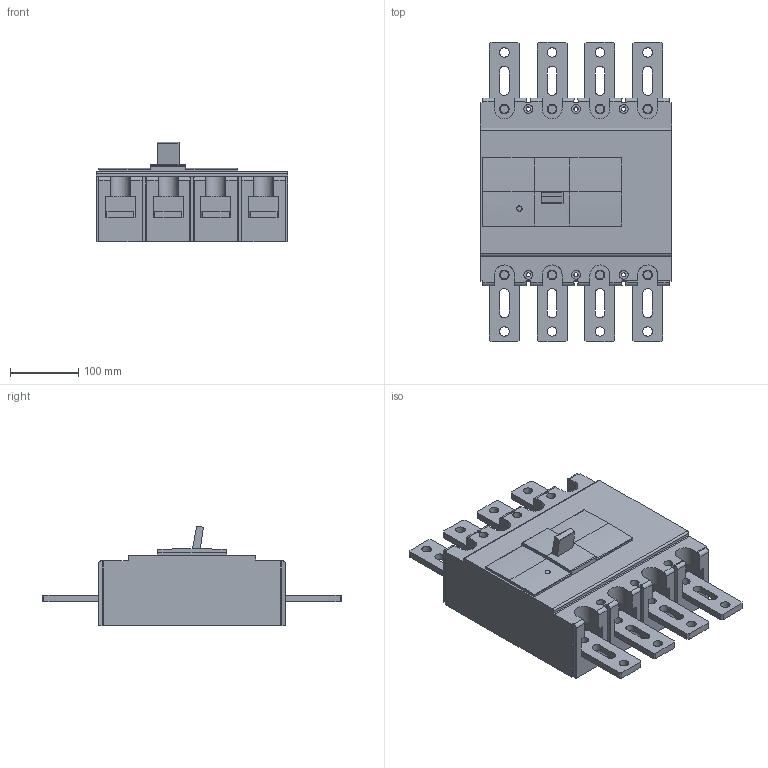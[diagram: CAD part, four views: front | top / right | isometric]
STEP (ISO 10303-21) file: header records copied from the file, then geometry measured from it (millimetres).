
FILE_DESCRIPTION (( 'STEP AP203' ), '1' );
FILE_NAME ('800N 4P.STEP', '2018-01-04T01:13:11', ( '' ), ( '' ), 'SwSTEP 2.0', 'SolidWorks 2015', '' );
FILE_SCHEMA (( 'CONFIG_CONTROL_DESIGN' ));
Length unit declared in the file: millimetre
Products named in the file (1): 800N 4P
Bounding box: 280 x 439 x 145.77 mm (x, y, z)
Volume: 7554012 mm3; surface area: 443295.1 mm2
Topology: 9 solids, 9 shells, 427 faces, 1172 edges, 781 vertices
Faces by surface type: plane 237, cylinder 190
Entity records: 14080 total; most frequent: CARTESIAN_POINT 2888, ORIENTED_EDGE 2344, DIRECTION 2277, EDGE_CURVE 1172, VERTEX_POINT 781, LINE 769, VECTOR 769, AXIS2_PLACEMENT_3D 754
